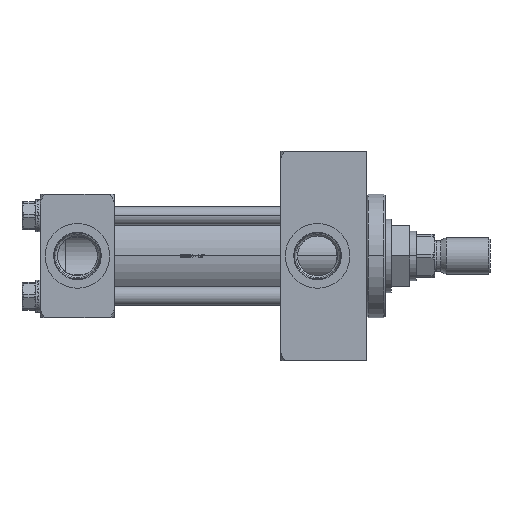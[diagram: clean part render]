
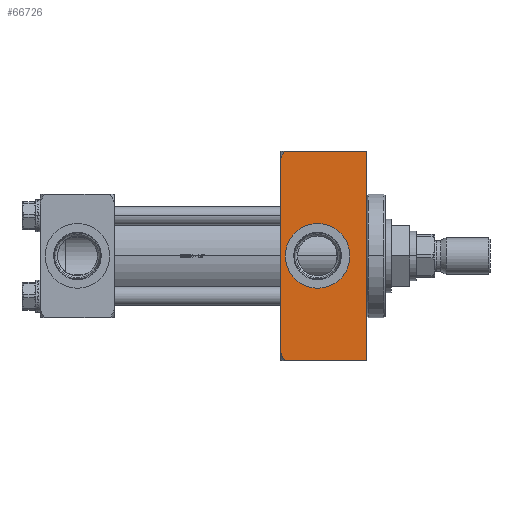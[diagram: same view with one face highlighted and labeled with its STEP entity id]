
A CAD part, top view. The second image highlights one B-rep face of the part: STEP entity #66726.
In plain terms, the highlighted planar face has unit normal (0, 0, 1).
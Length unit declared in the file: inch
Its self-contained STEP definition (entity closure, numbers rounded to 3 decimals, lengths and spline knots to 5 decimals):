
#980 = ORIENTED_EDGE ( 'NONE', *, *, #72462, .F. ) ;
#1368 = CARTESIAN_POINT ( 'NONE',  ( -3.125, -2.125, 1.25 ) ) ;
#1400 = B_SPLINE_CURVE_WITH_KNOTS ( 'NONE', 3,
 ( #42366, #61497, #29513, #54837, #67270, #79758, #47750, #67675, #9627, #48176 ),
 .UNSPECIFIED., .F., .F.,
 ( 4, 2, 2, 2, 4 ),
 ( 0.00308, 0.00446, 0.00584, 0.00722, 0.0086 ),
 .UNSPECIFIED. ) ;
#1461 = CARTESIAN_POINT ( 'NONE',  ( -3.04216, 2.125, 1.25 ) ) ;
#1933 = CARTESIAN_POINT ( 'NONE',  ( -3.10616, -2.0142, 1.25 ) ) ;
#3765 = DIRECTION ( 'NONE',  ( 0., 0., -1. ) ) ;
#4224 = CIRCLE ( 'NONE', #5508, 0.65625 ) ;
#4241 = EDGE_LOOP ( 'NONE', ( #47957, #11896 ) ) ;
#5186 = LINE ( 'NONE', #29623, #11045 ) ;
#5508 = AXIS2_PLACEMENT_3D ( 'NONE', #52798, #53603, #78928 ) ;
#8148 = CARTESIAN_POINT ( 'NONE',  ( -3.125, -1.94338, 1.25 ) ) ;
#9627 = CARTESIAN_POINT ( 'NONE',  ( -3.05263, 2.11019, 1.25 ) ) ;
#11045 = VECTOR ( 'NONE', #62032, 39.37008 ) ;
#11896 = ORIENTED_EDGE ( 'NONE', *, *, #58197, .T. ) ;
#14405 = CARTESIAN_POINT ( 'NONE',  ( -3.11257, -1.99703, 1.25 ) ) ;
#14734 = EDGE_LOOP ( 'NONE', ( #18265, #60326, #50013, #980, #33991, #22080 ) ) ;
#17752 = CARTESIAN_POINT ( 'NONE',  ( -3.04216, -2.125, 1.25 ) ) ;
#18265 = ORIENTED_EDGE ( 'NONE', *, *, #33999, .F. ) ;
#19194 = VERTEX_POINT ( 'NONE', #79761 ) ;
#20513 = AXIS2_PLACEMENT_3D ( 'NONE', #52717, #3765, #53140 ) ;
#20599 = CARTESIAN_POINT ( 'NONE',  ( -3.06292, -2.09483, 1.25 ) ) ;
#21896 = VECTOR ( 'NONE', #76488, 39.37008 ) ;
#22080 = ORIENTED_EDGE ( 'NONE', *, *, #79462, .F. ) ;
#22802 = DIRECTION ( 'NONE',  ( 1., 0., 0. ) ) ;
#24128 = VERTEX_POINT ( 'NONE', #37096 ) ;
#24979 = CARTESIAN_POINT ( 'NONE',  ( -3.125, -1.925, 1.25 ) ) ;
#25178 = VECTOR ( 'NONE', #22802, 39.37008 ) ;
#26019 = CARTESIAN_POINT ( 'NONE',  ( -3.05272, -2.11006, 1.25 ) ) ;
#27803 = LINE ( 'NONE', #54336, #25178 ) ;
#29513 = CARTESIAN_POINT ( 'NONE',  ( -3.12232, 1.96203, 1.25 ) ) ;
#29623 = CARTESIAN_POINT ( 'NONE',  ( -1.375, -2.125, 1.25 ) ) ;
#30444 = VECTOR ( 'NONE', #67656, 39.37008 ) ;
#31766 = VERTEX_POINT ( 'NONE', #24979 ) ;
#33455 = CARTESIAN_POINT ( 'NONE',  ( -3.10257, -2.0226, 1.25 ) ) ;
#33991 = ORIENTED_EDGE ( 'NONE', *, *, #68160, .F. ) ;
#33999 = EDGE_CURVE ( 'NONE', #53111, #31766, #43716, .T. ) ;
#34124 = CARTESIAN_POINT ( 'NONE',  ( -2.375, 0., 1.25 ) ) ;
#34828 = FACE_BOUND ( 'NONE', #4241, .T. ) ;
#37096 = CARTESIAN_POINT ( 'NONE',  ( -2.375, -0.65625, 1.25 ) ) ;
#38518 = EDGE_CURVE ( 'NONE', #53111, #75288, #44078, .T. ) ;
#40309 = EDGE_CURVE ( 'NONE', #62791, #24128, #59401, .T. ) ;
#42366 = CARTESIAN_POINT ( 'NONE',  ( -3.125, 1.925, 1.25 ) ) ;
#43631 = CARTESIAN_POINT ( 'NONE',  ( -2.375, 0.65625, 1.25 ) ) ;
#43716 = B_SPLINE_CURVE_WITH_KNOTS ( 'NONE', 3,
 ( #51680, #26019, #20599, #45896, #44665, #33455, #1933, #14405, #45466, #65002, #8148, #58783 ),
 .UNSPECIFIED., .F., .F.,
 ( 4, 2, 2, 2, 2, 4 ),
 ( 0.00627, 0.00766, 0.00905, 0.00975, 0.01044, 0.01184 ),
 .UNSPECIFIED. ) ;
#44078 = LINE ( 'NONE', #1368, #21896 ) ;
#44665 = CARTESIAN_POINT ( 'NONE',  ( -3.09096, -2.04742, 1.25 ) ) ;
#44813 = CARTESIAN_POINT ( 'NONE',  ( -1.375, 2.125, 1.25 ) ) ;
#45466 = CARTESIAN_POINT ( 'NONE',  ( -3.11542, -1.98823, 1.25 ) ) ;
#45896 = CARTESIAN_POINT ( 'NONE',  ( -3.08208, -2.06344, 1.25 ) ) ;
#47750 = CARTESIAN_POINT ( 'NONE',  ( -3.08173, 2.06404, 1.25 ) ) ;
#47957 = ORIENTED_EDGE ( 'NONE', *, *, #40309, .T. ) ;
#48176 = CARTESIAN_POINT ( 'NONE',  ( -3.04216, 2.125, 1.25 ) ) ;
#48572 = LINE ( 'NONE', #73101, #30444 ) ;
#50013 = ORIENTED_EDGE ( 'NONE', *, *, #65600, .T. ) ;
#51680 = CARTESIAN_POINT ( 'NONE',  ( -3.04216, -2.125, 1.25 ) ) ;
#52717 = CARTESIAN_POINT ( 'NONE',  ( -3.125, -2.125, 1.25 ) ) ;
#52798 = CARTESIAN_POINT ( 'NONE',  ( -2.375, 0., 1.25 ) ) ;
#53111 = VERTEX_POINT ( 'NONE', #17752 ) ;
#53140 = DIRECTION ( 'NONE',  ( 0., 1., 0. ) ) ;
#53603 = DIRECTION ( 'NONE',  ( 0., 0., -1. ) ) ;
#54336 = CARTESIAN_POINT ( 'NONE',  ( -3.125, 2.125, 1.25 ) ) ;
#54837 = CARTESIAN_POINT ( 'NONE',  ( -3.11296, 1.99748, 1.25 ) ) ;
#56843 = AXIS2_PLACEMENT_3D ( 'NONE', #34124, #58648, #71889 ) ;
#58197 = EDGE_CURVE ( 'NONE', #24128, #62791, #4224, .T. ) ;
#58648 = DIRECTION ( 'NONE',  ( 0., 0., -1. ) ) ;
#58783 = CARTESIAN_POINT ( 'NONE',  ( -3.125, -1.925, 1.25 ) ) ;
#59401 = CIRCLE ( 'NONE', #56843, 0.65625 ) ;
#60326 = ORIENTED_EDGE ( 'NONE', *, *, #38518, .T. ) ;
#61497 = CARTESIAN_POINT ( 'NONE',  ( -3.125, 1.94349, 1.25 ) ) ;
#62032 = DIRECTION ( 'NONE',  ( 0., 1., 0. ) ) ;
#62791 = VERTEX_POINT ( 'NONE', #43631 ) ;
#64841 = CARTESIAN_POINT ( 'NONE',  ( -1.375, -2.125, 1.25 ) ) ;
#65002 = CARTESIAN_POINT ( 'NONE',  ( -3.12243, -1.96146, 1.25 ) ) ;
#65600 = EDGE_CURVE ( 'NONE', #75288, #68242, #5186, .T. ) ;
#66726 = ADVANCED_FACE ( 'NONE', ( #71798, #34828 ), #78074, .F. ) ;
#67270 = CARTESIAN_POINT ( 'NONE',  ( -3.10635, 2.0146, 1.25 ) ) ;
#67656 = DIRECTION ( 'NONE',  ( 0., 1., 0. ) ) ;
#67675 = CARTESIAN_POINT ( 'NONE',  ( -3.06273, 2.09511, 1.25 ) ) ;
#68160 = EDGE_CURVE ( 'NONE', #19194, #78993, #1400, .T. ) ;
#68242 = VERTEX_POINT ( 'NONE', #44813 ) ;
#71798 = FACE_OUTER_BOUND ( 'NONE', #14734, .T. ) ;
#71889 = DIRECTION ( 'NONE',  ( 0., 1., 0. ) ) ;
#72462 = EDGE_CURVE ( 'NONE', #78993, #68242, #27803, .T. ) ;
#73101 = CARTESIAN_POINT ( 'NONE',  ( -3.125, -2.125, 1.25 ) ) ;
#75288 = VERTEX_POINT ( 'NONE', #64841 ) ;
#76488 = DIRECTION ( 'NONE',  ( 1., 0., 0. ) ) ;
#78074 = PLANE ( 'NONE',  #20513 ) ;
#78928 = DIRECTION ( 'NONE',  ( 0., 1., 0. ) ) ;
#78993 = VERTEX_POINT ( 'NONE', #1461 ) ;
#79462 = EDGE_CURVE ( 'NONE', #31766, #19194, #48572, .T. ) ;
#79758 = CARTESIAN_POINT ( 'NONE',  ( -3.09065, 2.04804, 1.25 ) ) ;
#79761 = CARTESIAN_POINT ( 'NONE',  ( -3.125, 1.925, 1.25 ) ) ;
